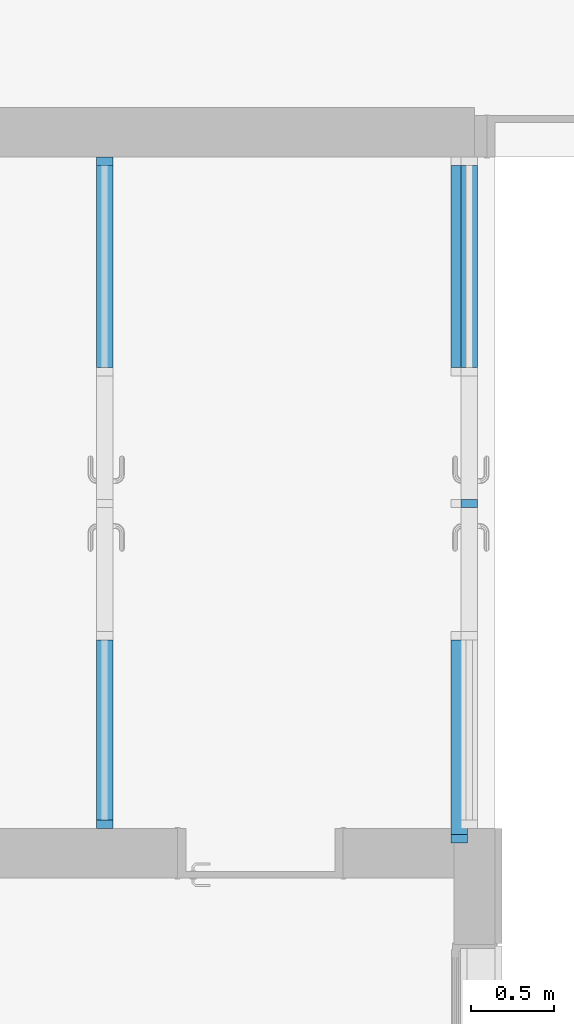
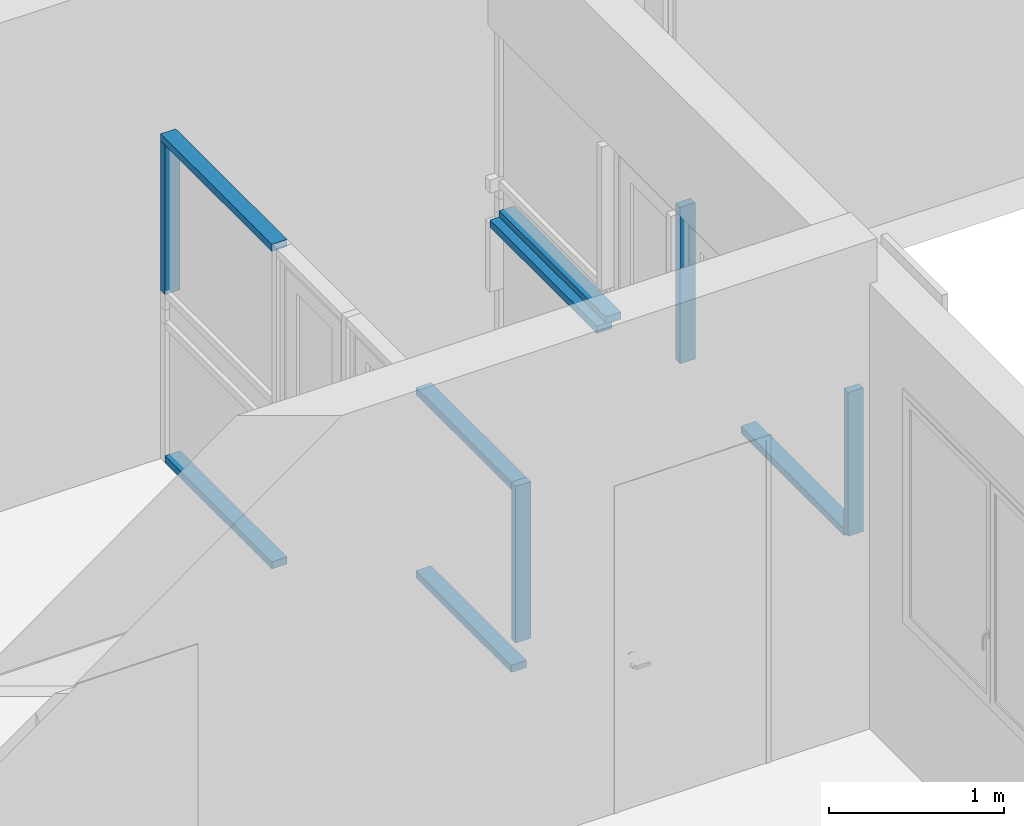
# One storey, part 1 of 9: 11 members, 2 elements without a shape of their own.
"""IFC2X3 building model written with IfcOpenShell, lengths in metres."""

from ifc_helpers import new_model, entity, si_unit, converted_unit, derived_unit, direction, frame, origin, origin_2d_with_axis, place, context, subcontext, project, spatial, rectangle, extrude, source, transform, mapped, material, type_object, type_shapes, element, aggregate, save


model = new_model("IFC2X3")

# Units and contexts
model_context = context("Model", 3, precision=1e-05, world=origin(), true_north=direction((6.12303176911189e-17, 1.0)))
body_context = subcontext(model_context, "Body", "Model", "MODEL_VIEW")
ifc_project = project(units=[si_unit("LENGTHUNIT", "METRE"), si_unit("AREAUNIT", "SQUARE_METRE"), si_unit("VOLUMEUNIT", "CUBIC_METRE"), converted_unit("PLANEANGLEUNIT", "DEGREE", entity("IfcRatioMeasure", 0.0174532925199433), si_unit("PLANEANGLEUNIT", "RADIAN"), dimensions=[0, 0, 0, 0, 0, 0, 0]), si_unit("MASSUNIT", "GRAM", prefix="KILO"), derived_unit("MASSDENSITYUNIT", [(si_unit("MASSUNIT", "GRAM", prefix="KILO"), 1), (si_unit("LENGTHUNIT", "METRE"), -3)]), derived_unit("MOMENTOFINERTIAUNIT", [(si_unit("LENGTHUNIT", "METRE"), 4)]), si_unit("TIMEUNIT", "SECOND"), si_unit("FREQUENCYUNIT", "HERTZ"), si_unit("THERMODYNAMICTEMPERATUREUNIT", "DEGREE_CELSIUS"), derived_unit("THERMALTRANSMITTANCEUNIT", [(si_unit("MASSUNIT", "GRAM", prefix="KILO"), 1), (si_unit("THERMODYNAMICTEMPERATUREUNIT", "KELVIN"), -1), (si_unit("TIMEUNIT", "SECOND"), -3)]), derived_unit("VOLUMETRICFLOWRATEUNIT", [(si_unit("LENGTHUNIT", "METRE"), 3), (si_unit("TIMEUNIT", "SECOND"), -1)]), si_unit("ELECTRICCURRENTUNIT", "AMPERE"), si_unit("ELECTRICVOLTAGEUNIT", "VOLT"), si_unit("POWERUNIT", "WATT"), si_unit("FORCEUNIT", "NEWTON", prefix="KILO"), si_unit("ILLUMINANCEUNIT", "LUX"), si_unit("LUMINOUSFLUXUNIT", "LUMEN"), si_unit("LUMINOUSINTENSITYUNIT", "CANDELA"), derived_unit("USERDEFINED", [(si_unit("MASSUNIT", "GRAM", prefix="KILO"), -1), (si_unit("LENGTHUNIT", "METRE"), -2), (si_unit("TIMEUNIT", "SECOND"), 3), (si_unit("LUMINOUSFLUXUNIT", "LUMEN"), 1)]), derived_unit("LINEARVELOCITYUNIT", [(si_unit("LENGTHUNIT", "METRE"), 1), (si_unit("TIMEUNIT", "SECOND"), -1)]), si_unit("PRESSUREUNIT", "PASCAL"), derived_unit("USERDEFINED", [(si_unit("LENGTHUNIT", "METRE"), -2), (si_unit("MASSUNIT", "GRAM", prefix="KILO"), 1), (si_unit("TIMEUNIT", "SECOND"), -2)]), derived_unit("LINEARFORCEUNIT", [(si_unit("MASSUNIT", "GRAM", prefix="KILO"), 1), (si_unit("LENGTHUNIT", "METRE"), 1), (si_unit("TIMEUNIT", "SECOND"), -2), (si_unit("LENGTHUNIT", "METRE"), -1)]), derived_unit("PLANARFORCEUNIT", [(si_unit("MASSUNIT", "GRAM", prefix="KILO"), 1), (si_unit("LENGTHUNIT", "METRE"), 1), (si_unit("TIMEUNIT", "SECOND"), -2), (si_unit("LENGTHUNIT", "METRE"), -2)])], contexts=[model_context])

# Site, building, storey
site_placement = place(None, origin())
site = spatial("IfcSite", under=ifc_project, at=site_placement, Name="Default", CompositionType="ELEMENT")
building_placement = place(site_placement, origin())
building = spatial("IfcBuilding", under=site, at=building_placement, CompositionType="ELEMENT")
storey_placement = place(building_placement, frame((0.0, 0.0, 0.253308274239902)))
storey = spatial("IfcBuildingStorey", under=building, at=storey_placement, Name="Niveau 00 - 01", CompositionType="ELEMENT", Elevation=0.253308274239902)

# Curtain wall, members
curtain_wall_type = type_object("IfcCurtainWallType", Name="Mur-rideau:SANS Calpinage", PredefinedType="NOTDEFINED")
curtain_wall_1_placement = place(storey_placement, frame((0.0, 0.0, -0.253308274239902)))
curtain_wall_1 = element("IfcCurtainWall", 1, at=curtain_wall_1_placement, inside=storey, type_object=curtain_wall_type, Name="Mur-rideau:SANS Calpinage", ObjectType="Mur-rideau:SANS Calpinage")
ifc_material = material(Name="Aluminium 2")
member_type_1 = type_object("IfcMemberType", Name="Meneau rectangulaire:50 x 100mm", PredefinedType="MULLION", material=ifc_material)
shared_shape_1 = source(origin(), body_context, "Body", "SweptSolid", [
    extrude(rectangle(XDim=0.1, YDim=0.05, at=origin_2d_with_axis()), frame((-0.025, 0.0, -1.08836982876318), z_axis=(0.0, 0.0, 1.0), x_axis=(0.0, -1.0, 0.0)), (0.0, 0.0, 1.0), 1.08836982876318),
])
type_shapes(member_type_1, [shared_shape_1])
placement = place(building_placement, origin())
member_1_placement = place(placement, frame((-31.1800011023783, -38.5090543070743, 2.51381031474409), z_axis=(0.0, -1.0, 0.0), x_axis=(0.0, 0.0, 1.0)))
member_1 = element("IfcMember", 2, at=member_1_placement, type_object=member_type_1, material=ifc_material, Name="Meneau rectangulaire:50 x 100mm", ObjectType="Meneau rectangulaire:50 x 100mm", context=body_context, shape_type="MappedRepresentation", body=[
    mapped(shared_shape_1, transform((0.0, 0.0, 0.0), scale=1.0)),
])
member_type_2 = type_object("IfcMemberType", Name="Meneau rectangulaire:50 x 100mm", PredefinedType="MULLION", material=ifc_material)
shared_shape_2 = source(origin(), body_context, "Body", "SweptSolid", [
    extrude(rectangle(XDim=0.1, YDim=0.05, at=origin_2d_with_axis()), frame((-0.025, 0.0, -1.21999999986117), z_axis=(0.0, 0.0, 1.0), x_axis=(0.0, -1.0, 0.0)), (0.0, 0.0, 1.0), 1.21999999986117),
])
type_shapes(member_type_2, [shared_shape_2])
member_2_placement = place(placement, frame((-31.1800011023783, -34.5590543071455, 0.253308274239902), z_axis=(0.0, 1.0, 0.0), x_axis=(0.0, 0.0, -1.0)))
member_2 = element("IfcMember", 3, at=member_2_placement, type_object=member_type_2, material=ifc_material, Name="Meneau rectangulaire:50 x 100mm", ObjectType="Meneau rectangulaire:50 x 100mm", context=body_context, shape_type="MappedRepresentation", body=[
    mapped(shared_shape_2, transform((0.0, 0.0, 0.0), scale=1.0)),
])
member_type_3 = type_object("IfcMemberType", Name="Meneau rectangulaire:50 x 100mm", PredefinedType="MULLION", material=ifc_material)
shared_shape_3 = source(origin(), body_context, "Body", "SweptSolid", [
    extrude(rectangle(XDim=0.1, YDim=0.05, at=origin_2d_with_axis()), frame((-0.025, 0.0, -1.04036451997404), z_axis=(0.0, 0.0, 1.0), x_axis=(0.0, -1.0, 0.0)), (0.0, 0.0, 1.0), 1.04036451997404),
])
type_shapes(member_type_3, [shared_shape_3])
member_3_placement = place(placement, frame((-31.1800011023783, -34.5090543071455, 2.46381031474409), z_axis=(0.0, 0.0, 1.0), x_axis=(0.0, 1.0, 0.0)))
member_3 = element("IfcMember", 4, at=member_3_placement, type_object=member_type_3, material=ifc_material, Name="Meneau rectangulaire:50 x 100mm", ObjectType="Meneau rectangulaire:50 x 100mm", context=body_context, shape_type="MappedRepresentation", body=[
    mapped(shared_shape_3, transform((0.0, 0.0, 0.0), scale=1.0)),
])
member_type_4 = type_object("IfcMemberType", Name="Meneau rectangulaire:50 x 100mm", PredefinedType="MULLION", material=ifc_material)
shared_shape_4 = source(origin(), body_context, "Body", "SweptSolid", [
    extrude(rectangle(XDim=0.1, YDim=0.05, at=origin_2d_with_axis()), frame((-0.025, 0.0, -1.26999999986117), z_axis=(0.0, 0.0, 1.0), x_axis=(0.0, -1.0, 0.0)), (0.0, 0.0, 1.0), 1.26999999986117),
])
type_shapes(member_type_4, [shared_shape_4])
member_4_placement = place(placement, frame((-31.1800011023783, -35.7790543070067, 2.51381031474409), z_axis=(0.0, -1.0, 0.0), x_axis=(0.0, 0.0, 1.0)))
member_4 = element("IfcMember", 5, at=member_4_placement, type_object=member_type_4, material=ifc_material, Name="Meneau rectangulaire:50 x 100mm", ObjectType="Meneau rectangulaire:50 x 100mm", context=body_context, shape_type="MappedRepresentation", body=[
    mapped(shared_shape_4, transform((0.0, 0.0, 0.0), scale=1.0)),
])

curtain_wall_2_placement = place(storey_placement, frame((0.0, 0.0, -0.253308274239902)))
curtain_wall_2 = element("IfcCurtainWall", 6, at=curtain_wall_2_placement, inside=storey, type_object=curtain_wall_type, Name="Mur-rideau:SANS Calpinage", ObjectType="Mur-rideau:SANS Calpinage")
member_type_5 = type_object("IfcMemberType", Name="Meneau rectangulaire:50 x 100mm", PredefinedType="MULLION", material=ifc_material)
shared_shape_5 = source(origin(), body_context, "Body", "SweptSolid", [
    extrude(rectangle(XDim=0.1, YDim=0.05, at=origin_2d_with_axis()), frame((0.0, 0.0, -1.21999999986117), z_axis=(0.0, 0.0, 1.0), x_axis=(0.0, -1.0, 0.0)), (0.0, 0.0, 1.0), 1.21999999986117),
])
type_shapes(member_type_5, [shared_shape_5])
member_5_placement = place(placement, frame((-29.0400011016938, -35.7790543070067, 1.17), z_axis=(0.0, -1.0, 0.0), x_axis=(0.0, 0.0, 1.0)))
member_5 = element("IfcMember", 7, at=member_5_placement, type_object=member_type_5, material=ifc_material, Name="Meneau rectangulaire:50 x 100mm", ObjectType="Meneau rectangulaire:50 x 100mm", context=body_context, shape_type="MappedRepresentation", body=[
    mapped(shared_shape_5, transform((0.0, 0.0, 0.0), scale=1.0)),
])
member_6_placement = place(placement, frame((-28.9800011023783, -35.7790543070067, 1.2133082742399), z_axis=(0.0, -1.0, 0.0), x_axis=(0.0, 0.0, 1.0)))
member_6 = element("IfcMember", 8, at=member_6_placement, type_object=member_type_5, material=ifc_material, Name="Meneau rectangulaire:50 x 100mm", ObjectType="Meneau rectangulaire:50 x 100mm", context=body_context, shape_type="MappedRepresentation", body=[
    mapped(shared_shape_5, transform((0.0, 0.0, 0.0), scale=1.0)),
])

# Member
member_type_6 = type_object("IfcMemberType", Name="Meneau rectangulaire:50 x 100mm", PredefinedType="MULLION", material=ifc_material)
shared_shape_6 = source(origin(), body_context, "Body", "SweptSolid", [
    extrude(rectangle(XDim=0.1, YDim=0.05, at=origin_2d_with_axis()), frame((-0.025, 0.0, -1.09036451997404), z_axis=(0.0, 0.0, 1.0), x_axis=(0.0, -1.0, 0.0)), (0.0, 0.0, 1.0), 1.09036451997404),
])
type_shapes(member_type_6, [shared_shape_6])
member_7_placement = place(placement, frame((-31.1800011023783, -38.5590543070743, 1.42344579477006), z_axis=(0.0, 0.0, -1.0), x_axis=(0.0, -1.0, 0.0)))
member_7 = element("IfcMember", 9, at=member_7_placement, type_object=member_type_6, material=ifc_material, Name="Meneau rectangulaire:50 x 100mm", ObjectType="Meneau rectangulaire:50 x 100mm", context=body_context, shape_type="MappedRepresentation", body=[
    mapped(shared_shape_6, transform((0.0, 0.0, 0.0), scale=1.0)),
])

member_type_7 = type_object("IfcMemberType", Name="Meneau rectangulaire:50 x 100mm", PredefinedType="MULLION", material=ifc_material)
shared_shape_7 = source(origin(), body_context, "Body", "SweptSolid", [
    extrude(rectangle(XDim=0.1, YDim=0.05, at=origin_2d_with_axis()), frame((0.0, 0.0, -1.09036451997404), z_axis=(0.0, 0.0, 1.0), x_axis=(0.0, -1.0, 0.0)), (0.0, 0.0, 1.0), 1.09036451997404),
])
type_shapes(member_type_7, [shared_shape_7])
member_8_placement = place(placement, frame((-28.9800011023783, -36.5990543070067, 1.42344579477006), z_axis=(0.0, 0.0, -1.0), x_axis=(0.0, -1.0, 0.0)))
member_8 = element("IfcMember", 10, at=member_8_placement, type_object=member_type_7, material=ifc_material, Name="Meneau rectangulaire:50 x 100mm", ObjectType="Meneau rectangulaire:50 x 100mm", context=body_context, shape_type="MappedRepresentation", body=[
    mapped(shared_shape_7, transform((0.0, 0.0, 0.0), scale=1.0)),
])

aggregate(curtain_wall_2, [member_5, member_8, member_6])

member_type_8 = type_object("IfcMemberType", Name="Meneau rectangulaire:50 x 100mm", PredefinedType="MULLION", material=ifc_material)
shared_shape_8 = source(origin(), body_context, "Body", "SweptSolid", [
    extrude(rectangle(XDim=0.1, YDim=0.05, at=origin_2d_with_axis()), frame((-0.025, 0.0, -1.00050204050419), z_axis=(0.0, 0.0, 1.0), x_axis=(0.0, -1.0, 0.0)), (0.0, 0.0, 1.0), 1.00050204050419),
])
type_shapes(member_type_8, [shared_shape_8])
member_9_placement = place(placement, frame((-29.0400011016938, -38.6456844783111, 1.47), z_axis=(0.0, 0.0, -1.0), x_axis=(0.0, -1.0, 0.0)))
member_9 = element("IfcMember", 11, at=member_9_placement, type_object=member_type_8, material=ifc_material, Name="Meneau rectangulaire:50 x 100mm", ObjectType="Meneau rectangulaire:50 x 100mm", context=body_context, shape_type="MappedRepresentation", body=[
    mapped(shared_shape_8, transform((0.0, 0.0, 0.0), scale=1.0)),
])

member_type_9 = type_object("IfcMemberType", Name="Meneau rectangulaire:50 x 100mm", PredefinedType="MULLION", material=ifc_material)
shared_shape_9 = source(origin(), body_context, "Body", "SweptSolid", [
    extrude(rectangle(XDim=0.1, YDim=0.05, at=origin_2d_with_axis()), frame((0.0, 0.0, -1.175), z_axis=(0.0, 0.0, 1.0), x_axis=(0.0, -1.0, 0.0)), (0.0, 0.0, 1.0), 1.175),
])
type_shapes(member_type_9, [shared_shape_9])
member_10_placement = place(placement, frame((-29.0400011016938, -38.5956844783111, 1.47), z_axis=(0.0, -1.0, 0.0), x_axis=(0.0, 0.0, 1.0)))
member_10 = element("IfcMember", 12, at=member_10_placement, type_object=member_type_9, material=ifc_material, Name="Meneau rectangulaire:50 x 100mm", ObjectType="Meneau rectangulaire:50 x 100mm", context=body_context, shape_type="MappedRepresentation", body=[
    mapped(shared_shape_9, transform((0.0, 0.0, 0.0), scale=1.0)),
])

member_type_10 = type_object("IfcMemberType", Name="Meneau rectangulaire:50 x 100mm", PredefinedType="MULLION", material=ifc_material)
shared_shape_10 = source(origin(), body_context, "Body", "SweptSolid", [
    extrude(rectangle(XDim=0.1, YDim=0.05, at=origin_2d_with_axis()), frame((0.0, 0.0, -1.08836982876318), z_axis=(0.0, 0.0, 1.0), x_axis=(0.0, -1.0, 0.0)), (0.0, 0.0, 1.0), 1.08836982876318),
])
type_shapes(member_type_10, [shared_shape_10])
member_11_placement = place(placement, frame((-31.1800011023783, -38.5090543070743, 1.2133082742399), z_axis=(0.0, -1.0, 0.0), x_axis=(0.0, 0.0, 1.0)))
member_11 = element("IfcMember", 13, at=member_11_placement, type_object=member_type_10, material=ifc_material, Name="Meneau rectangulaire:50 x 100mm", ObjectType="Meneau rectangulaire:50 x 100mm", context=body_context, shape_type="MappedRepresentation", body=[
    mapped(shared_shape_10, transform((0.0, 0.0, 0.0), scale=1.0)),
])

aggregate(curtain_wall_1, [member_1, member_2, member_3, member_4, member_7, member_9, member_10, member_11])

save(model, "model.ifc")
